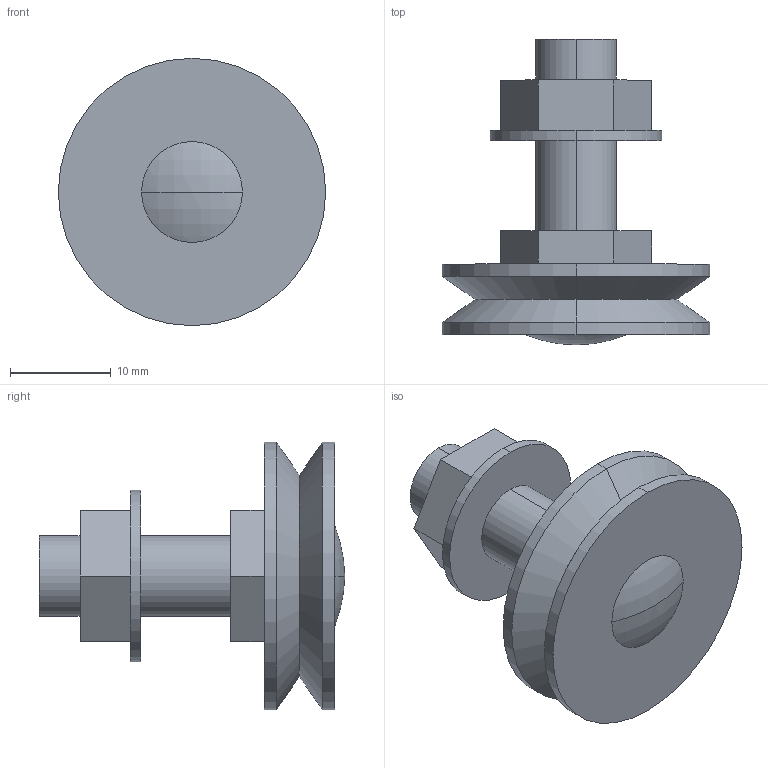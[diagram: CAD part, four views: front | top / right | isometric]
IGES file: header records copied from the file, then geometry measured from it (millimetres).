
Start section: 3D InterOp IGES (v. 2019 1.0.2), Spatial Corp. Copyright (c) 1999-2017.
Global section: file name: GLJ 265 C.igs; native system: Spatial Corp.; preprocessor: 3D InterOp GENERIC/IGES 3.0; author: Noname; organization: Noname; date: 20220628.170610; units: millimetre
Bounding box: 26.5 x 30.3 x 26.5 mm (x, y, z)
Surface area: 2997.4 mm2 (no closed solid volume)
Topology: 0 solids, 0 shells, 35 faces, 152 edges, 152 vertices
Faces by surface type: extrusion 19, revolution 16
